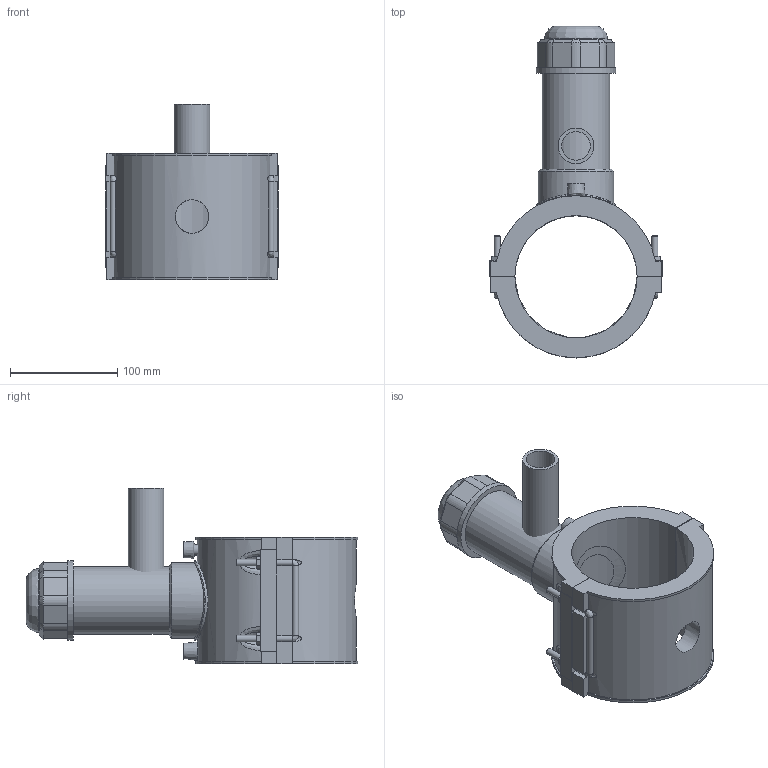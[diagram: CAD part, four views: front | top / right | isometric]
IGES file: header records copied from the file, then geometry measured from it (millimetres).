
Global section: file name: 5963BBP3040010.ipt; native system: Autodesk Inventor 2019; preprocessor: unknown; author: KIM; date: 20210830.101530; units: inch
Bounding box: 161 x 309.74 x 163.96 mm (x, y, z)
Volume: 1237731.5 mm3; surface area: 225419.1 mm2
Topology: 5 solids, 6 shells, 195 faces, 480 edges, 304 vertices
Faces by surface type: plane 112, cylinder 38, revolution 17, cone 15, bspline 13
Full cylindrical faces by diameter (mm): 4 x2, 6 x8, 33.3 x1, 59.332 x1, 63.04 x1, 70.457 x1, 74.165 x2
